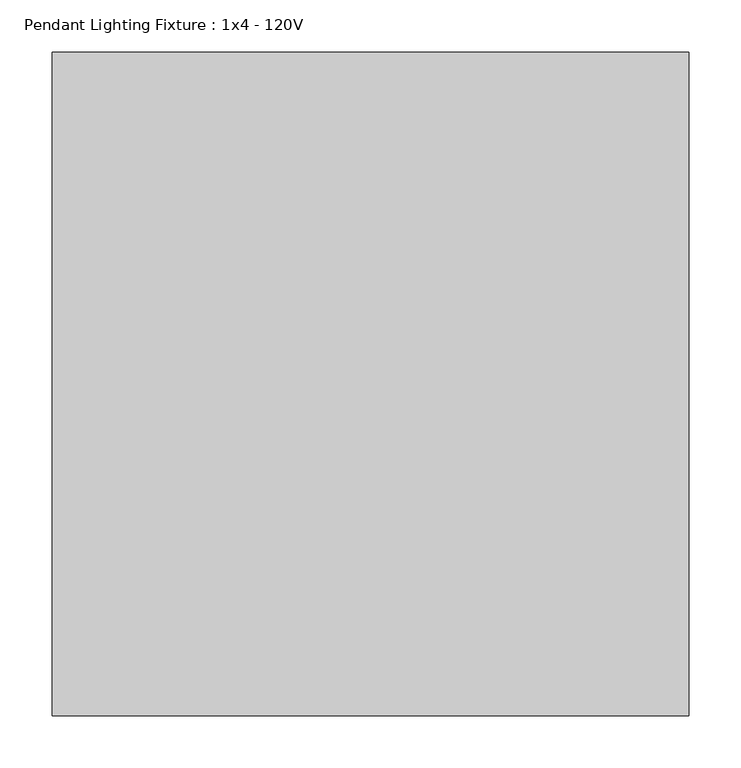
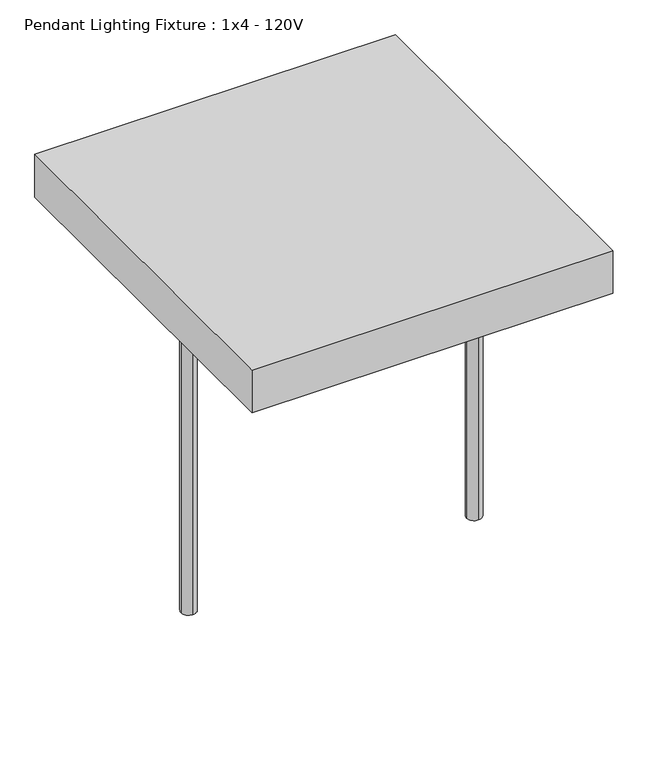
"""IFC4 building model written with IfcOpenShell, lengths in millimetres: light fixture geometry, Pendant Lighting Fixture : 1x4 - 120V."""

from ifc_helpers import new_model, si_unit, point, frame, frame_2d, origin, origin_with_axes, place, context, project, spatial, polyline, circle_curve, trimmed, segment, composite_curve, outline, extrude, source, transform, mapped, element, save


def pendant_lighting_fixture_1x4_120v_cc67f8e6(model_context):
    return source(origin(), model_context, "Body", "SweptSolid", [
        extrude(outline(composite_curve([segment(trimmed(circle_curve(frame_2d((76.2, -101.6)), 12.7), [point((88.9, -101.6))], [point((76.2, -114.3))], False, "CARTESIAN"), True, "CONTINUOUS"), segment(trimmed(circle_curve(frame_2d((76.2, -101.6)), 12.7), [point((76.2, -114.3))], [point((63.5, -101.6))], False, "CARTESIAN"), True, "CONTINUOUS"), segment(trimmed(circle_curve(frame_2d((76.2, -101.6)), 12.7), [point((63.5, -101.6))], [point((76.2, -88.9))], False, "CARTESIAN"), True, "CONTINUOUS"), segment(trimmed(circle_curve(frame_2d((76.2, -101.6)), 12.7), [point((76.2, -88.9))], [point((88.9, -101.6))], False, "CARTESIAN"), True, "CONTINUOUS")], self_intersect=False)), origin_with_axes(), (0.0, 0.0, 1.0), 571.5),
        extrude(outline(composite_curve([segment(trimmed(circle_curve(frame_2d((558.8, -101.6)), 12.7), [point((571.5, -101.6))], [point((558.8, -114.3))], False, "CARTESIAN"), True, "CONTINUOUS"), segment(trimmed(circle_curve(frame_2d((558.8, -101.6)), 12.7), [point((558.8, -114.3))], [point((546.1, -101.6))], False, "CARTESIAN"), True, "CONTINUOUS"), segment(trimmed(circle_curve(frame_2d((558.8, -101.6)), 12.7), [point((546.1, -101.6))], [point((558.8, -88.9))], False, "CARTESIAN"), True, "CONTINUOUS"), segment(trimmed(circle_curve(frame_2d((558.8, -101.6)), 12.7), [point((558.8, -88.9))], [point((571.5, -101.6))], False, "CARTESIAN"), True, "CONTINUOUS")], self_intersect=False)), origin_with_axes(), (0.0, 0.0, 1.0), 571.5),
        extrude(outline(polyline([(609.6, 215.9), (609.6, -419.1), (0.0, -419.1), (0.0, 215.9), (609.6, 215.9)])), frame((0.0, 0.0, 571.5), z_axis=(0.0, 0.0, 1.0), x_axis=(1.0, 0.0, 0.0)), (0.0, 0.0, 1.0), 76.2),
    ])


if __name__ == "__main__":
    model = new_model("IFC4")
    model_context = context("Model", 3, world=origin())
    ifc_project = project(units=[si_unit("LENGTHUNIT", "METRE", prefix="MILLI")], contexts=[model_context])
    site = spatial("IfcSite", under=ifc_project)
    building = spatial("IfcBuilding", under=site)
    placement = place(None, origin())
    pendant_lighting_fixture_1x4_120v_shape = pendant_lighting_fixture_1x4_120v_cc67f8e6(model_context)
    element("IfcLightFixture", 1, ObjectType="Pendant Lighting Fixture : 1x4 - 120V", at=placement, inside=building, context=model_context, shape_type="MappedRepresentation", body=[
        mapped(pendant_lighting_fixture_1x4_120v_shape, transform((0.0, 0.0, 0.0), x_axis=(1.0, 0.0, 0.0), y_axis=(0.0, 1.0, 0.0), z_axis=(0.0, 0.0, 1.0))),
    ])
    save(model, "model.ifc")
